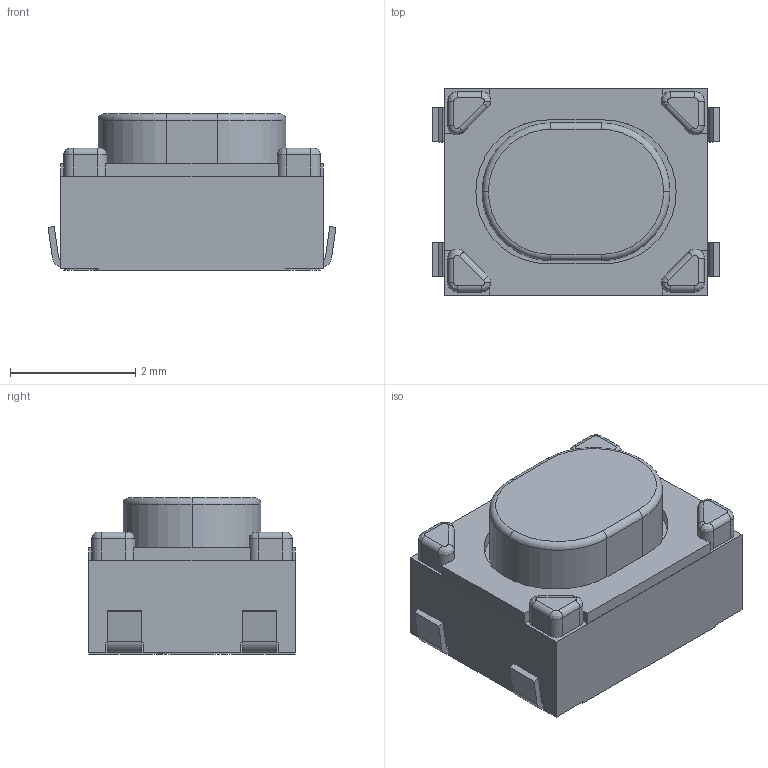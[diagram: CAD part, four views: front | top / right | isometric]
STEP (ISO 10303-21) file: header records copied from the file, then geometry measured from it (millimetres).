
FILE_DESCRIPTION((''),'2;1');
FILE_NAME('JQA3242-B0253-01AG-1-105_ASM','2026-06-30T11:48:00',('Admin'),(''),'CREO PARAMETRIC BY PTC INC, 2019224','CREO PARAMETRIC BY PTC INC, 2019224','');
FILE_SCHEMA(('AUTOMOTIVE_DESIGN { 1 0 10303 214 1 1 1 1 }'));
Length unit declared in the file: millimetre
Products named in the file (7): JQA3242-B0253-01AG-1-105_02; JQA3242-B0253-01AG-1-105_03; JQA3242-B0253-01AG-1-105_04; JQA3242-B0253-01AG-1-105_05; JQA3242-B0253-01AG-1-105_06; JQA3242-B0253-01AG-1-105_01_ASM; JQA3242-B0253-01AG-1-105_ASM
Assembly tree (6 placements, depth 3):
  JQA3242-B0253-01AG-1-105_ASM
    JQA3242-B0253-01AG-1-105_01_ASM
      JQA3242-B0253-01AG-1-105_02
      JQA3242-B0253-01AG-1-105_03
      JQA3242-B0253-01AG-1-105_04
      JQA3242-B0253-01AG-1-105_05
      JQA3242-B0253-01AG-1-105_06
Bounding box: 4.6 x 3.3 x 2.5 mm (x, y, z)
Volume: 27.3 mm3; surface area: 114.8 mm2
Topology: 5 solids, 5 shells, 311 faces, 853 edges, 557 vertices
Faces by surface type: plane 150, cylinder 133, bspline 22, torus 4, extrusion 2
Entity records: 12349 total; most frequent: CARTESIAN_POINT 2723, ORIENTED_EDGE 1706, DIRECTION 1682, EDGE_CURVE 853, AXIS2_PLACEMENT_3D 591, VERTEX_POINT 557, VECTOR 500, LINE 498
